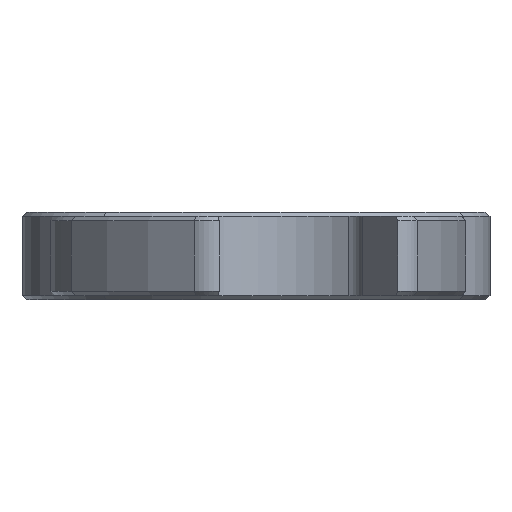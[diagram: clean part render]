
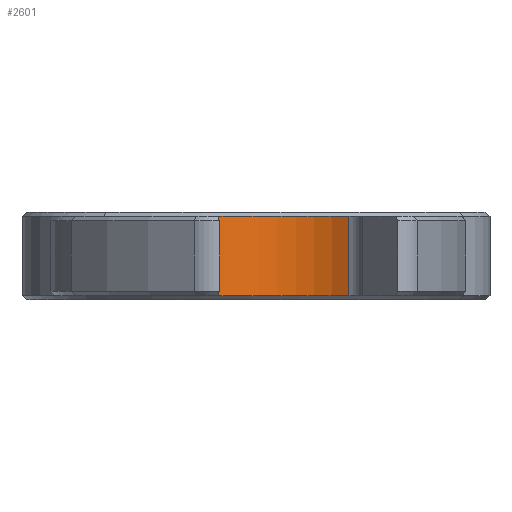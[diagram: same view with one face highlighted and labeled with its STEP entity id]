
A CAD part, left-side view. The second image highlights one B-rep face of the part: STEP entity #2601.
In plain terms, the highlighted cylindrical face has radius 13 mm (diameter 26 mm), a partial arc.
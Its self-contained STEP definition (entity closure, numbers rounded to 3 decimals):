
#149=CIRCLE('',#2843,13.);
#152=CIRCLE('',#2849,13.);
#184=CYLINDRICAL_SURFACE('',#2848,13.);
#353=FACE_OUTER_BOUND('',#505,.T.);
#505=EDGE_LOOP('',(#2355,#2356,#2357,#2358));
#783=LINE('',#4678,#1009);
#784=LINE('',#4682,#1010);
#1009=VECTOR('',#3521,10.);
#1010=VECTOR('',#3526,10.);
#1251=VERTEX_POINT('',#4666);
#1252=VERTEX_POINT('',#4668);
#1254=VERTEX_POINT('',#4676);
#1255=VERTEX_POINT('',#4680);
#1625=EDGE_CURVE('',#1251,#1252,#149,.T.);
#1630=EDGE_CURVE('',#1251,#1254,#783,.T.);
#1631=EDGE_CURVE('',#1255,#1254,#152,.T.);
#1632=EDGE_CURVE('',#1252,#1255,#784,.T.);
#2355=ORIENTED_EDGE('',*,*,#1630,.T.);
#2356=ORIENTED_EDGE('',*,*,#1631,.F.);
#2357=ORIENTED_EDGE('',*,*,#1632,.F.);
#2358=ORIENTED_EDGE('',*,*,#1625,.F.);
#2601=ADVANCED_FACE('',(#353),#184,.F.);
#2843=AXIS2_PLACEMENT_3D('',#4669,#3509,#3510);
#2848=AXIS2_PLACEMENT_3D('',#4679,#3522,#3523);
#2849=AXIS2_PLACEMENT_3D('',#4681,#3524,#3525);
#3509=DIRECTION('center_axis',(0.,0.,1.));
#3510=DIRECTION('ref_axis',(-0.846,0.533,0.));
#3521=DIRECTION('',(0.,0.,1.));
#3522=DIRECTION('center_axis',(0.,0.,1.));
#3523=DIRECTION('ref_axis',(-0.846,0.533,0.));
#3524=DIRECTION('center_axis',(0.,0.,-1.));
#3525=DIRECTION('ref_axis',(-0.846,0.533,0.));
#3526=DIRECTION('',(0.,0.,1.));
#4666=CARTESIAN_POINT('',(-86.56,-10.297,-4.5));
#4668=CARTESIAN_POINT('',(-91.499,8.138,-4.5));
#4669=CARTESIAN_POINT('Origin',(-97.557,-3.365,-4.5));
#4676=CARTESIAN_POINT('',(-86.56,-10.297,4.5));
#4678=CARTESIAN_POINT('',(-86.56,-10.297,0.));
#4679=CARTESIAN_POINT('Origin',(-97.557,-3.365,0.));
#4680=CARTESIAN_POINT('',(-91.499,8.138,4.5));
#4681=CARTESIAN_POINT('Origin',(-97.557,-3.365,4.5));
#4682=CARTESIAN_POINT('',(-91.499,8.138,0.));
